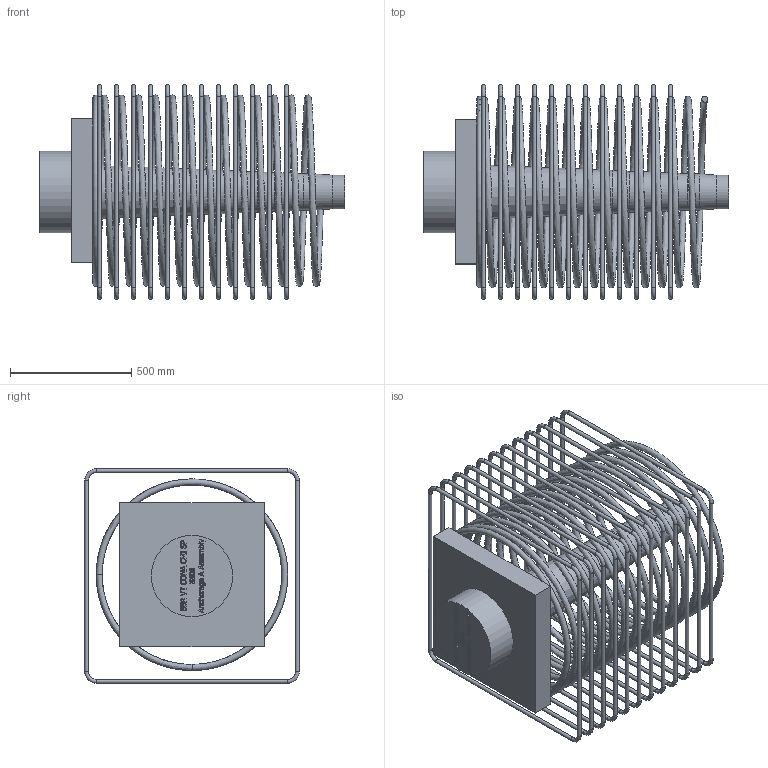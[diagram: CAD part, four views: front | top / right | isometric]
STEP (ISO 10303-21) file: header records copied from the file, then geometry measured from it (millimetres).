
FILE_DESCRIPTION(/* description */ (''),/* implementation_level */ '2;1');
FILE_NAME(/* name */ 'Z:\04 Publications\05 Give-out\BBR\6_3D_Models\BBR VT CONA CMI\BBR VT CONA CMI SP\05506\BBR VT CONA CMI SP 5506_Anchorage A Assembly_CS-34,28.stp',/* time_stamp */ '2017-05-09T10:35:28+02:00',/* author */ ('IP'),/* organization */ (''),/* preprocessor_version */ 'ST-DEVELOPER v16.1',/* originating_system */ 'Autodesk Inventor 2016',/* authorisation */ '');
FILE_SCHEMA (('AUTOMOTIVE_DESIGN { 1 0 10303 214 3 1 1 }'));
Length unit declared in the file: millimetre
Products named in the file (1): BBR VT CONA CMI SP 5506_Anchorage A Assembly_CS-34,28
Bounding box: 1258.15 x 885 x 885 mm (x, y, z)
Volume: 95195771.9 mm3; surface area: 6316630.8 mm2
Topology: 14 solids, 14 shells, 732 faces, 1913 edges, 1240 vertices
Faces by surface type: plane 315, bspline 308, torus 54, cylinder 54, cone 1
Full cylindrical faces by diameter (mm): 16 x48, 139 x1, 149 x1, 159 x1, 169 x1, 179 x1, 335 x1
Entity records: 30209 total; most frequent: CARTESIAN_POINT 13912, ORIENTED_EDGE 3612, DIRECTION 2153, EDGE_CURVE 1803, VERTEX_POINT 1239, LINE 1069, VECTOR 1069, EDGE_LOOP 901
